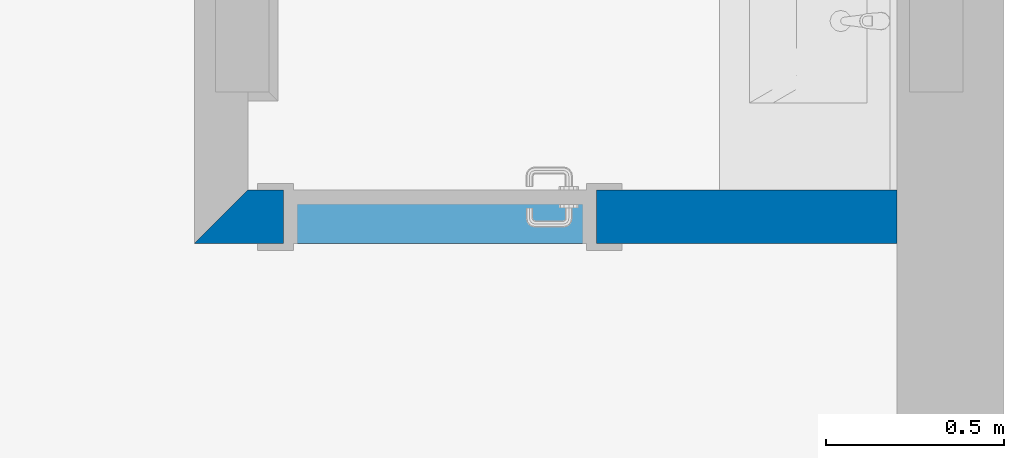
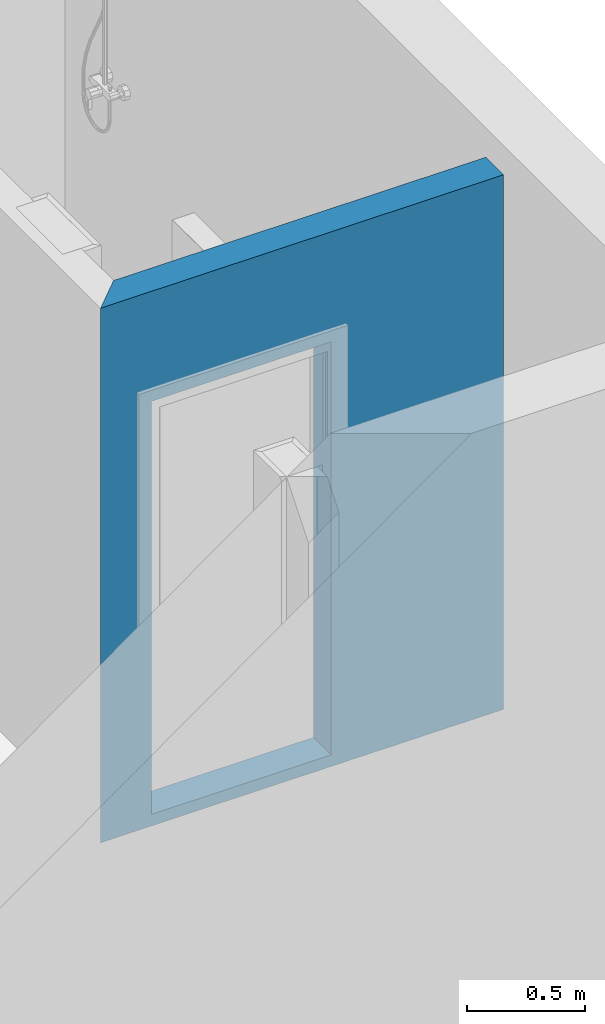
# One storey, part 13 of 24: 1 wall, 1 opening.
"""IFC2X3 building model written with IfcOpenShell, lengths in millimetres."""

import ifcopenshell
import ifcopenshell.guid

model = None  # the IFC model being written
_history = None  # IfcOwnerHistory: only IFC2X3 demands one
_inside = {}  # id of a spatial element -> (the spatial element, [elements in it])
_under = {}  # id of a project, library or spatial element -> (it, [spatial elements below it])
_declared = {}  # id of a project -> (the project, [libraries it declares])
_typed = {}  # id of a type object -> (the type object, [elements of that type])
_made_of = {}  # id of a material, layer set ... -> (it, [elements and type objects made of it])


def new_model(schema):
    """Start an empty IFC model of exactly this schema.

    Asked for "IFC4X3", IfcOpenShell would pick the latest addendum, in which some entities
    have other attributes; the version numbers below select the first issue.
    IFC2X3 requires an IfcOwnerHistory on every rooted entity: one is made here for all.
    """
    global model, _history
    if schema == "IFC4X3":
        model = ifcopenshell.file(schema_version=(4, 3, 0, 0))
    else:
        model = ifcopenshell.file(schema=schema)
    _inside.clear()
    _under.clear()
    _declared.clear()
    _typed.clear()
    _made_of.clear()
    _history = None
    if model.schema == "IFC2X3":
        org = make("IfcOrganization", Name="unknown")
        user = make(
            "IfcPersonAndOrganization",
            ThePerson=make("IfcPerson", FamilyName="unknown"),
            TheOrganization=org,
        )
        app = make(
            "IfcApplication",
            ApplicationDeveloper=org,
            Version="unknown",
            ApplicationFullName="unknown",
            ApplicationIdentifier="unknown",
        )
        _history = make(
            "IfcOwnerHistory",
            OwningUser=user,
            OwningApplication=app,
            ChangeAction="ADDED",
            CreationDate=0,
        )
    return model


def make(cls, **values):
    """One entity of the class cls with the attributes given. An attribute that is None is left unset."""
    return model.create_entity(
        cls, **{name: value for name, value in values.items() if value is not None}
    )


def entity(cls, *values):
    """Any entity or typed value of the class cls, its attributes in the order of the schema. None: left unset."""
    e = model.create_entity(cls)
    for i, value in enumerate(values):
        if value is not None:
            e[i] = value
    return e


def rooted(cls, **values):
    """An entity with a GlobalId (a new one), such as an element, a storey or a relation."""
    return make(cls, GlobalId=ifcopenshell.guid.new(), OwnerHistory=_history, **values)


def si_unit(unit_type, name, prefix=None):
    """IfcSIUnit, for example si_unit("LENGTHUNIT", "METRE", prefix="MILLI")."""
    return make("IfcSIUnit", UnitType=unit_type, Prefix=prefix, Name=name)


def converted_unit(unit_type, name, factor, base, dimensions=None, offset=None):
    """IfcConversionBasedUnit, such as the inch: factor (a typed value) times the base unit."""
    return make(
        "IfcConversionBasedUnit"
        if offset is None
        else "IfcConversionBasedUnitWithOffset",
        ConversionOffset=offset,
        Dimensions=None
        if dimensions is None
        else entity("IfcDimensionalExponents", *dimensions),
        UnitType=unit_type,
        Name=name,
        ConversionFactor=make(
            "IfcMeasureWithUnit", ValueComponent=factor, UnitComponent=base
        ),
    )


def money_unit(currency):
    """IfcMonetaryUnit."""
    return make("IfcMonetaryUnit", Currency=currency)


def assignment(units):
    """IfcUnitAssignment: the units of a project."""
    return None if units is None else make("IfcUnitAssignment", Units=units)


def point(xyz):
    """IfcCartesianPoint."""
    return None if xyz is None else make("IfcCartesianPoint", Coordinates=xyz)


def direction(xyz):
    """IfcDirection."""
    return None if xyz is None else make("IfcDirection", DirectionRatios=xyz)


def frame(location, z_axis=None, x_axis=None):
    """IfcAxis2Placement3D, a coordinate frame: its origin and axes. An axis left out is left unset."""
    return make(
        "IfcAxis2Placement3D",
        Location=point(location),
        Axis=direction(z_axis),
        RefDirection=direction(x_axis),
    )


def frame_2d(location, x_axis=None):
    """IfcAxis2Placement2D, a coordinate frame in the plane: its origin and x axis."""
    return make(
        "IfcAxis2Placement2D", Location=point(location), RefDirection=direction(x_axis)
    )


def origin_with_axes():
    """The frame at (0, 0, 0) with the z axis (0, 0, 1) and the x axis (1, 0, 0) written out."""
    return frame((0.0, 0.0, 0.0), z_axis=(0.0, 0.0, 1.0), x_axis=(1.0, 0.0, 0.0))


def origin_2d_with_axis():
    """The frame at (0, 0) in the plane with the x axis (1, 0) written out."""
    return frame_2d((0.0, 0.0), x_axis=(1.0, 0.0))


def place(relative_to, where):
    """IfcLocalPlacement: puts the frame where relative to a parent placement (None: the world)."""
    return make(
        "IfcLocalPlacement", PlacementRelTo=relative_to, RelativePlacement=where
    )


def context(
    kind, dimensions, precision=None, world=None, true_north=None, identifier=None
):
    """IfcGeometricRepresentationContext, for example the 3D "Model" context."""
    return make(
        "IfcGeometricRepresentationContext",
        ContextIdentifier=identifier,
        ContextType=kind,
        CoordinateSpaceDimension=dimensions,
        Precision=precision,
        WorldCoordinateSystem=world,
        TrueNorth=true_north,
    )


def subcontext(parent, identifier, kind, view, scale=None):
    """IfcGeometricRepresentationSubContext, for example "Body" below "Model"."""
    return make(
        "IfcGeometricRepresentationSubContext",
        ContextIdentifier=identifier,
        ContextType=kind,
        ParentContext=parent,
        TargetScale=scale,
        TargetView=view,
    )


def project(units=None, contexts=None):
    """IfcProject with its units and contexts."""
    return rooted(
        "IfcProject",
        Name="project",
        RepresentationContexts=contexts,
        UnitsInContext=assignment(units),
    )


def spatial(cls, under=None, at=None, **own):
    """A site, building, storey or space (cls), placed at a placement, below another one or the project."""
    s = rooted(cls, ObjectPlacement=at, **own)
    if under is not None:
        _under.setdefault(under.id(), (under, []))[1].append(s)
    return s


def polyline(points):
    """IfcPolyline through the points."""
    return make("IfcPolyline", Points=[point(p) for p in points])


def profile(cls, at=None, kind="AREA", **sizes):
    """A parametric profile (cls). Its sizes go by their IFC names, for example OverallWidth=200.0."""
    return make(cls, ProfileType=kind, Position=at, **sizes)


def rectangle(**sizes):
    """IfcRectangleProfileDef."""
    return profile("IfcRectangleProfileDef", **sizes)


def outline(outer, holes=None, kind="AREA"):
    """IfcArbitraryClosedProfileDef: a profile drawn as a closed curve; with holes, ...WithVoids."""
    if holes is None:
        return make("IfcArbitraryClosedProfileDef", ProfileType=kind, OuterCurve=outer)
    return make(
        "IfcArbitraryProfileDefWithVoids",
        ProfileType=kind,
        OuterCurve=outer,
        InnerCurves=holes,
    )


def extrude(swept, where, along, depth):
    """IfcExtrudedAreaSolid: the profile swept, set in the frame where, extruded along a direction by depth."""
    return make(
        "IfcExtrudedAreaSolid",
        SweptArea=swept,
        Position=where,
        ExtrudedDirection=direction(along),
        Depth=depth,
    )


def shape(context_of_items, identifier, shape_type, items):
    """IfcShapeRepresentation: the items that make up one representation, for example the "Body"."""
    return make(
        "IfcShapeRepresentation",
        ContextOfItems=context_of_items,
        RepresentationIdentifier=identifier,
        RepresentationType=shape_type,
        Items=items,
    )


def material(Name=None, Category=None):
    """IfcMaterial."""
    return make("IfcMaterial", Name=Name, Category=Category)


def layer(
    of_material, thickness, ventilated=None, Name=None, Category=None, Priority=None
):
    """IfcMaterialLayer: one layer of a wall or slab, of a material (None: an air gap)."""
    return make(
        "IfcMaterialLayer",
        Material=of_material,
        LayerThickness=thickness,
        IsVentilated=ventilated,
        Name=Name,
        Category=Category,
        Priority=Priority,
    )


def layer_set(layers, Name=None):
    """IfcMaterialLayerSet."""
    return make("IfcMaterialLayerSet", MaterialLayers=layers, LayerSetName=Name)


def layer_usage(for_layer_set, set_direction, sense, offset, extent=None):
    """IfcMaterialLayerSetUsage: how a layer set lies in its element."""
    return make(
        "IfcMaterialLayerSetUsage",
        ForLayerSet=for_layer_set,
        LayerSetDirection=set_direction,
        DirectionSense=sense,
        OffsetFromReferenceLine=offset,
        ReferenceExtent=extent,
    )


def made_of(thing, what):
    """Note that an element or type object is made of a material, layer set ...; save() writes the relation."""
    if what is not None:
        _made_of.setdefault(what.id(), (what, []))[1].append(thing)
    return thing


def type_object(cls, material=None, **own):
    """A type object (cls), such as IfcWallType, which elements share."""
    return made_of(rooted(cls, **own), material)


def element(
    cls,
    number,
    at=None,
    inside=None,
    cuts=None,
    type_object=None,
    material=None,
    context=None,
    identifier="Body",
    shape_type=None,
    held_by="IfcProductDefinitionShape",
    body=None,
    shapes=None,
    **own,
):
    """One element of the class cls, such as IfcWall. Its Tag is "e" and its number.

    at: its placement. inside: the storey or other place that contains it. cuts: it is an
    opening in that element (IfcRelVoidsElement). A single representation is given by context,
    identifier, shape_type and body (its items); several are given by shapes. held_by: the class
    of the entity that holds the representations. save() writes the other relations.
    """
    e = rooted(cls, Tag="e%d" % number, ObjectPlacement=at, **own)
    if body is not None:
        shapes = [shape(context, identifier, shape_type, body)]
    if shapes is not None:
        e.Representation = make(held_by, Representations=shapes)
    if inside is not None:
        _inside.setdefault(inside.id(), (inside, []))[1].append(e)
    if cuts is not None:
        rooted(
            "IfcRelVoidsElement", RelatingBuildingElement=cuts, RelatedOpeningElement=e
        )
    if type_object is not None:
        _typed.setdefault(type_object.id(), (type_object, []))[1].append(e)
    return made_of(e, material)


def aggregate(whole, parts):
    """IfcRelAggregates: a whole, such as a stair, and the parts it consists of."""
    return rooted("IfcRelAggregates", RelatingObject=whole, RelatedObjects=parts)


def save(model, path):
    """Write the relations noted so far, then the file.

    IfcRelAggregates (storeys below a building ...), IfcRelContainedInSpatialStructure (elements
    in a storey), IfcRelDefinesByType, IfcRelAssociatesMaterial and IfcRelDeclares: one each for
    every whole, place, type object, material and project.
    """
    for whole, parts in _under.values():
        aggregate(whole, parts)
    for where, things in _inside.values():
        rooted(
            "IfcRelContainedInSpatialStructure",
            RelatedElements=things,
            RelatingStructure=where,
        )
    for kind, things in _typed.values():
        rooted("IfcRelDefinesByType", RelatedObjects=things, RelatingType=kind)
    for what, things in _made_of.values():
        rooted("IfcRelAssociatesMaterial", RelatedObjects=things, RelatingMaterial=what)
    for by, libraries in _declared.values():
        rooted("IfcRelDeclares", RelatingContext=by, RelatedDefinitions=libraries)
    model.write(path)


model = new_model("IFC2X3")

# Units and contexts
model_context = context("Model", 3, precision=1e-05, world=origin_with_axes(), true_north=direction((0.0, 1.0)))
body_context = subcontext(model_context, "Body", "Model", "MODEL_VIEW")
ifc_project = project(units=[si_unit("LENGTHUNIT", "METRE", prefix="MILLI"), si_unit("AREAUNIT", "SQUARE_METRE"), si_unit("VOLUMEUNIT", "CUBIC_METRE"), converted_unit("PLANEANGLEUNIT", "DEGREE", entity("IfcPlaneAngleMeasure", 0.0174532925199), si_unit("PLANEANGLEUNIT", "RADIAN"), dimensions=[0, 0, 0, 0, 0, 0, 0]), si_unit("SOLIDANGLEUNIT", "STERADIAN"), money_unit("USD"), converted_unit("TIMEUNIT", "Year", entity("IfcTimeMeasure", 31556926.0), si_unit("TIMEUNIT", "SECOND"), dimensions=[0, 0, 0, 0, 0, 0, 0]), si_unit("MASSUNIT", "GRAM"), si_unit("THERMODYNAMICTEMPERATUREUNIT", "DEGREE_CELSIUS"), si_unit("LUMINOUSINTENSITYUNIT", "LUMEN")], contexts=[model_context])

# Site, building, storey
site_placement = place(None, origin_with_axes())
site = spatial("IfcSite", under=ifc_project, at=site_placement, Name="Grove Residential", CompositionType="ELEMENT")
building_placement = place(site_placement, origin_with_axes())
building = spatial("IfcBuilding", under=site, at=building_placement, Name="Building", CompositionType="ELEMENT")
storey_placement = place(building_placement, frame((0.0, 0.0, 3740.0), z_axis=(0.0, 0.0, 1.0), x_axis=(1.0, 0.0, 0.0)))
storey = spatial("IfcBuildingStorey", under=building, at=storey_placement, Name="First Floor", CompositionType="ELEMENT", Elevation=3740.0)

# Wall, opening
ifc_material_1 = material(Name="Wall Tiles")
ifc_layer_1 = layer(ifc_material_1, 12.5, ventilated="UNKNOWN")
ifc_material_2 = material(Name="Gypsum Plasterboard - Waterproof")
ifc_layer_2 = layer(ifc_material_2, 12.5, ventilated="UNKNOWN")
ifc_material_3 = material(Name="Air Space - Frame")
ifc_layer_3 = layer(ifc_material_3, 50.0, ventilated="UNKNOWN")
ifc_material_4 = material(Name="Insulation - Mineral Soft")
ifc_layer_4 = layer(ifc_material_4, 50.0, ventilated="UNKNOWN")
ifc_material_5 = material(Name="Gypsum Plasterboard")
ifc_layer_5 = layer(ifc_material_5, 12.5, ventilated="UNKNOWN")
ifc_layer_6 = layer(ifc_material_5, 12.5, ventilated="UNKNOWN")
ifc_layer_set = layer_set([ifc_layer_1, ifc_layer_2, ifc_layer_3, ifc_layer_4, ifc_layer_5, ifc_layer_6], Name="IWF-002")
ifc_layer_usage = layer_usage(ifc_layer_set, "AXIS2", "NEGATIVE", 150.0)
wall_type = type_object("IfcWallType", Name="IWF-002 150", PredefinedType="NOTDEFINED")
wall_placement = place(storey_placement, frame((9975.0, 3124.99996722, -60.0), z_axis=(0.0, 0.0, 1.0), x_axis=(1.0, 0.0, 0.0)))
wall = element("IfcWallStandardCase", 1, at=wall_placement, inside=storey, type_object=wall_type, material=ifc_layer_usage, Name="SW - 001", context=body_context, shape_type="SweptSolid", body=[
    extrude(outline(polyline([(0.0, 0.0), (1975.0, 0.0), (1975.0, 150.0), (150.0, 150.0), (0.0, 0.0)])), origin_with_axes(), (0.0, 0.0, 1.0), 2770.0),
])
opening_placement = place(wall_placement, frame((690.0, 0.0, 60.0), z_axis=(0.0, 0.0, 1.0), x_axis=(1.0, 0.0, 0.0)))
element("IfcOpeningElement", 2, at=opening_placement, cuts=wall, Name="D.01", context=body_context, shape_type="SweptSolid", body=[
    extrude(rectangle(XDim=880.0, YDim=2140.0, at=origin_2d_with_axis()), frame((0.0, 150.0, 1070.0), z_axis=(0.0, 1.0, 0.0), x_axis=(-1.0, 0.0, 0.0)), (0.0, 0.0, -1.0), 450.0),
    extrude(rectangle(XDim=1024.0, YDim=2212.0, at=origin_2d_with_axis()), frame((0.0, 150.0, 1106.0), z_axis=(0.0, 1.0, 0.0), x_axis=(-1.0, 0.0, 0.0)), (0.0, 0.0, 1.0), 150.0),
    extrude(rectangle(XDim=1024.0, YDim=2212.0, at=origin_2d_with_axis()), frame((0.0, 0.0, 1106.0), z_axis=(0.0, -1.0, 0.0), x_axis=(-1.0, 0.0, 0.0)), (0.0, 0.0, 1.0), 150.0),
])

save(model, "model.ifc")
